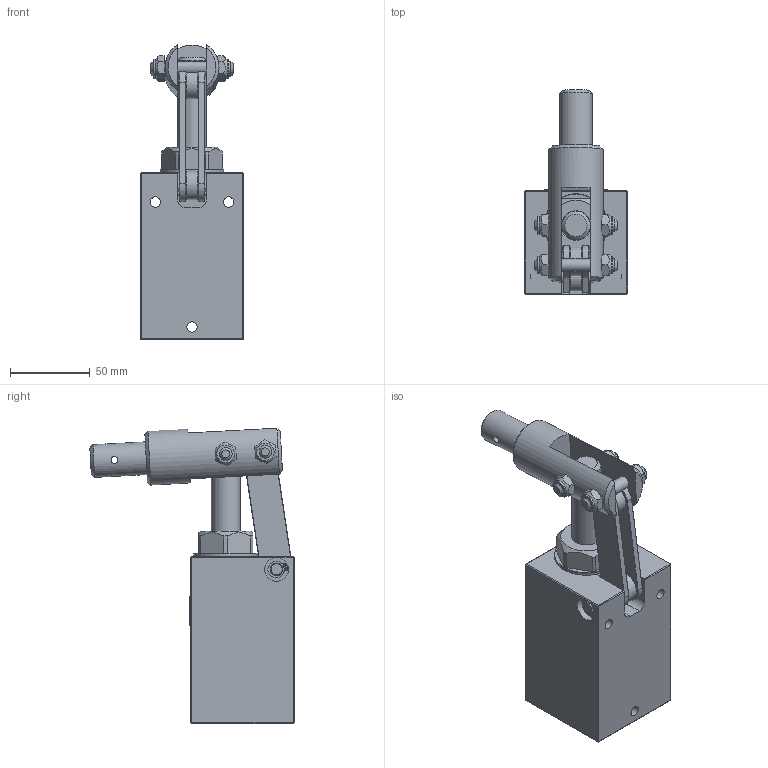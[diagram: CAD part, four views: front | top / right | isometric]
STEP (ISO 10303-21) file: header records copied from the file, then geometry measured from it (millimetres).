
FILE_DESCRIPTION((''),'2;1');
FILE_NAME('G:\HV_HYDRAULIC\AZIENDA_HV_HYDRAULIC\ARCHIVIO_DISEGNI\5_PRODOTTI_FINITI\1_POMPE_MANUALI\6076_PMP_12\6076.0000_PMP_12_e_(HV)\6076.0000.stp','2024-03-29T12:01:59',('christian.scardovi'),(''),'Autodesk Inventor 2013','Autodesk Inventor 2013','');
FILE_SCHEMA(('AUTOMOTIVE_DESIGN { 1 0 10303 214 1 1 1 1 }'));
Length unit declared in the file: millimetre
Products named in the file (1): 6076.0000
Bounding box: 65 x 128.32 x 185.67 mm (x, y, z)
Volume: 3970.5 mm3; surface area: 71901.3 mm2
Topology: 4 solids, 5 shells, 779 faces, 2014 edges, 1322 vertices
Faces by surface type: plane 459, bspline 154, cylinder 102, cone 45, torus 19
Full cylindrical faces by diameter (mm): 1.2 x4, 4.25 x1, 6.5 x3, 7.6 x2, 8 x16, 10 x1, 10.5 x1, 11.05 x4, 13.5 x1, 14 x1, 15 x3, 15.5 x1, 18 x3, 20.6 x1, 22 x1, 25 x1, 34 x1, 40 x1
Entity records: 24911 total; most frequent: CARTESIAN_POINT 6513, ORIENTED_EDGE 3844, DIRECTION 3029, EDGE_CURVE 1922, VERTEX_POINT 1303, VECTOR 1227, LINE 1227, EDGE_LOOP 965
